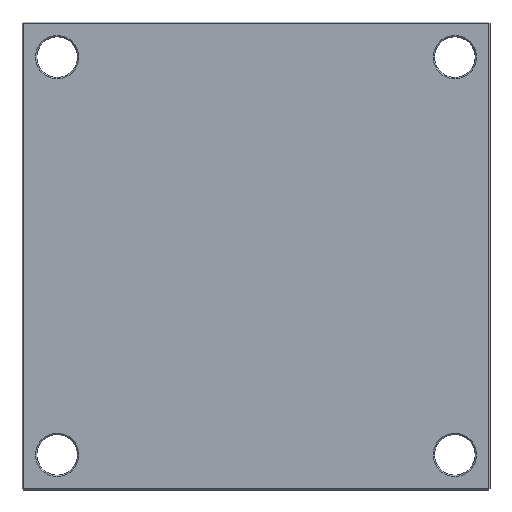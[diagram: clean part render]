
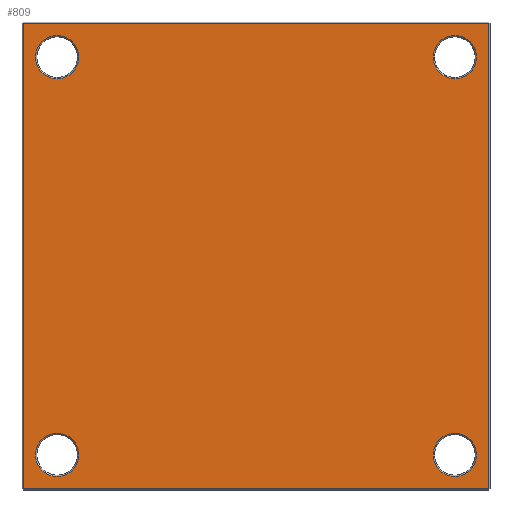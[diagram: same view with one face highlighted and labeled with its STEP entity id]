
A CAD part, front view. The second image highlights one B-rep face of the part: STEP entity #809.
In plain terms, the highlighted planar face has unit normal (0, -1, 0).
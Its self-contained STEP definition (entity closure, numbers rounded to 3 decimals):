
#5 = CIRCLE ( 'NONE', #78, 16. ) ;
#39 = CARTESIAN_POINT ( 'NONE',  ( 147., 0., -163. ) ) ;
#46 = DIRECTION ( 'NONE',  ( -1., 0., 0. ) ) ;
#47 = CARTESIAN_POINT ( 'NONE',  ( -172., 0., -172. ) ) ;
#56 = DIRECTION ( 'NONE',  ( 0., 0., 1. ) ) ;
#71 = CARTESIAN_POINT ( 'NONE',  ( 0., 0., 0. ) ) ;
#78 = AXIS2_PLACEMENT_3D ( 'NONE', #1435, #989, #1199 ) ;
#83 = CARTESIAN_POINT ( 'NONE',  ( 0., 0., 172. ) ) ;
#91 = PLANE ( 'NONE',  #1365 ) ;
#122 = ORIENTED_EDGE ( 'NONE', *, *, #1351, .T. ) ;
#128 = VECTOR ( 'NONE', #1727, 1000. ) ;
#143 = ORIENTED_EDGE ( 'NONE', *, *, #2069, .T. ) ;
#181 = VECTOR ( 'NONE', #963, 1000. ) ;
#192 = DIRECTION ( 'NONE',  ( 0., 1., 0. ) ) ;
#201 = DIRECTION ( 'NONE',  ( 0., 1., 0. ) ) ;
#202 = ORIENTED_EDGE ( 'NONE', *, *, #557, .T. ) ;
#254 = FACE_OUTER_BOUND ( 'NONE', #1886, .T. ) ;
#277 = CARTESIAN_POINT ( 'NONE',  ( -147., 0., 147. ) ) ;
#298 = EDGE_LOOP ( 'NONE', ( #1005, #1440 ) ) ;
#363 = DIRECTION ( 'NONE',  ( 0., 0., 1. ) ) ;
#428 = VERTEX_POINT ( 'NONE', #47 ) ;
#450 = CIRCLE ( 'NONE', #862, 16. ) ;
#479 = VERTEX_POINT ( 'NONE', #1819 ) ;
#490 = EDGE_CURVE ( 'NONE', #428, #1511, #930, .T. ) ;
#519 = CARTESIAN_POINT ( 'NONE',  ( 172., 0., 172. ) ) ;
#527 = CARTESIAN_POINT ( 'NONE',  ( -172., 0., 0. ) ) ;
#557 = EDGE_CURVE ( 'NONE', #607, #1721, #450, .T. ) ;
#565 = EDGE_LOOP ( 'NONE', ( #1109, #1587 ) ) ;
#607 = VERTEX_POINT ( 'NONE', #1795 ) ;
#627 = CIRCLE ( 'NONE', #1877, 16. ) ;
#640 = VERTEX_POINT ( 'NONE', #1338 ) ;
#669 = FACE_BOUND ( 'NONE', #1212, .T. ) ;
#688 = VECTOR ( 'NONE', #46, 1000. ) ;
#691 = AXIS2_PLACEMENT_3D ( 'NONE', #2002, #1700, #1963 ) ;
#733 = DIRECTION ( 'NONE',  ( 0., 1., 0. ) ) ;
#740 = CARTESIAN_POINT ( 'NONE',  ( -147., 0., -163. ) ) ;
#809 = ADVANCED_FACE ( 'NONE', ( #669, #1526, #1593, #1961, #254 ), #91, .F. ) ;
#862 = AXIS2_PLACEMENT_3D ( 'NONE', #1902, #1890, #1875 ) ;
#883 = VERTEX_POINT ( 'NONE', #39 ) ;
#884 = LINE ( 'NONE', #527, #181 ) ;
#904 = AXIS2_PLACEMENT_3D ( 'NONE', #2109, #2040, #2012 ) ;
#917 = CIRCLE ( 'NONE', #1608, 16. ) ;
#927 = EDGE_CURVE ( 'NONE', #1625, #640, #1677, .T. ) ;
#930 = LINE ( 'NONE', #1815, #1663 ) ;
#943 = EDGE_CURVE ( 'NONE', #640, #1625, #2048, .T. ) ;
#963 = DIRECTION ( 'NONE',  ( 0., 0., -1. ) ) ;
#980 = LINE ( 'NONE', #1687, #128 ) ;
#989 = DIRECTION ( 'NONE',  ( 0., 1., 0. ) ) ;
#992 = CARTESIAN_POINT ( 'NONE',  ( 147., 0., -131. ) ) ;
#1005 = ORIENTED_EDGE ( 'NONE', *, *, #943, .T. ) ;
#1009 = DIRECTION ( 'NONE',  ( 0., 0., 1. ) ) ;
#1021 = CARTESIAN_POINT ( 'NONE',  ( 147., 0., -147. ) ) ;
#1042 = ORIENTED_EDGE ( 'NONE', *, *, #1655, .T. ) ;
#1057 = CARTESIAN_POINT ( 'NONE',  ( -147., 0., 131. ) ) ;
#1063 = EDGE_CURVE ( 'NONE', #883, #1546, #917, .T. ) ;
#1087 = AXIS2_PLACEMENT_3D ( 'NONE', #277, #192, #363 ) ;
#1109 = ORIENTED_EDGE ( 'NONE', *, *, #1063, .T. ) ;
#1129 = VERTEX_POINT ( 'NONE', #1708 ) ;
#1146 = DIRECTION ( 'NONE',  ( 1., 0., 0. ) ) ;
#1166 = LINE ( 'NONE', #83, #688 ) ;
#1199 = DIRECTION ( 'NONE',  ( 0., 0., 1. ) ) ;
#1212 = EDGE_LOOP ( 'NONE', ( #1827, #1519 ) ) ;
#1235 = EDGE_CURVE ( 'NONE', #1935, #1129, #627, .T. ) ;
#1251 = EDGE_CURVE ( 'NONE', #1511, #2085, #980, .T. ) ;
#1291 = EDGE_LOOP ( 'NONE', ( #143, #202 ) ) ;
#1338 = CARTESIAN_POINT ( 'NONE',  ( 147., 0., 131. ) ) ;
#1351 = EDGE_CURVE ( 'NONE', #2085, #479, #1166, .T. ) ;
#1365 = AXIS2_PLACEMENT_3D ( 'NONE', #71, #201, #56 ) ;
#1435 = CARTESIAN_POINT ( 'NONE',  ( -147., 0., -147. ) ) ;
#1438 = EDGE_CURVE ( 'NONE', #1129, #1935, #5, .T. ) ;
#1440 = ORIENTED_EDGE ( 'NONE', *, *, #927, .T. ) ;
#1441 = CARTESIAN_POINT ( 'NONE',  ( 147., 0., 147. ) ) ;
#1454 = DIRECTION ( 'NONE',  ( 0., 0., 1. ) ) ;
#1511 = VERTEX_POINT ( 'NONE', #2152 ) ;
#1519 = ORIENTED_EDGE ( 'NONE', *, *, #1438, .T. ) ;
#1526 = FACE_BOUND ( 'NONE', #565, .T. ) ;
#1546 = VERTEX_POINT ( 'NONE', #992 ) ;
#1547 = CARTESIAN_POINT ( 'NONE',  ( -147., 0., -147. ) ) ;
#1565 = DIRECTION ( 'NONE',  ( 0., 1., 0. ) ) ;
#1587 = ORIENTED_EDGE ( 'NONE', *, *, #1779, .T. ) ;
#1593 = FACE_BOUND ( 'NONE', #298, .T. ) ;
#1595 = DIRECTION ( 'NONE',  ( 0., 1., 0. ) ) ;
#1608 = AXIS2_PLACEMENT_3D ( 'NONE', #1021, #733, #1009 ) ;
#1625 = VERTEX_POINT ( 'NONE', #1801 ) ;
#1655 = EDGE_CURVE ( 'NONE', #479, #428, #884, .T. ) ;
#1663 = VECTOR ( 'NONE', #1146, 1000. ) ;
#1668 = CIRCLE ( 'NONE', #691, 16. ) ;
#1674 = CIRCLE ( 'NONE', #1087, 16. ) ;
#1677 = CIRCLE ( 'NONE', #904, 16. ) ;
#1679 = ORIENTED_EDGE ( 'NONE', *, *, #490, .T. ) ;
#1687 = CARTESIAN_POINT ( 'NONE',  ( 172., 0., 0. ) ) ;
#1700 = DIRECTION ( 'NONE',  ( 0., 1., 0. ) ) ;
#1703 = DIRECTION ( 'NONE',  ( 0., 0., 1. ) ) ;
#1708 = CARTESIAN_POINT ( 'NONE',  ( -147., 0., -131. ) ) ;
#1721 = VERTEX_POINT ( 'NONE', #1057 ) ;
#1727 = DIRECTION ( 'NONE',  ( 0., 0., 1. ) ) ;
#1779 = EDGE_CURVE ( 'NONE', #1546, #883, #1668, .T. ) ;
#1795 = CARTESIAN_POINT ( 'NONE',  ( -147., 0., 163. ) ) ;
#1801 = CARTESIAN_POINT ( 'NONE',  ( 147., 0., 163. ) ) ;
#1815 = CARTESIAN_POINT ( 'NONE',  ( 0., 0., -172. ) ) ;
#1819 = CARTESIAN_POINT ( 'NONE',  ( -172., 0., 172. ) ) ;
#1827 = ORIENTED_EDGE ( 'NONE', *, *, #1235, .T. ) ;
#1875 = DIRECTION ( 'NONE',  ( 0., 0., 1. ) ) ;
#1877 = AXIS2_PLACEMENT_3D ( 'NONE', #1547, #1595, #1703 ) ;
#1886 = EDGE_LOOP ( 'NONE', ( #2022, #122, #1042, #1679 ) ) ;
#1890 = DIRECTION ( 'NONE',  ( 0., 1., 0. ) ) ;
#1902 = CARTESIAN_POINT ( 'NONE',  ( -147., 0., 147. ) ) ;
#1935 = VERTEX_POINT ( 'NONE', #740 ) ;
#1961 = FACE_BOUND ( 'NONE', #1291, .T. ) ;
#1963 = DIRECTION ( 'NONE',  ( 0., 0., 1. ) ) ;
#2002 = CARTESIAN_POINT ( 'NONE',  ( 147., 0., -147. ) ) ;
#2012 = DIRECTION ( 'NONE',  ( 0., 0., 1. ) ) ;
#2022 = ORIENTED_EDGE ( 'NONE', *, *, #1251, .T. ) ;
#2040 = DIRECTION ( 'NONE',  ( 0., 1., 0. ) ) ;
#2048 = CIRCLE ( 'NONE', #2172, 16. ) ;
#2069 = EDGE_CURVE ( 'NONE', #1721, #607, #1674, .T. ) ;
#2085 = VERTEX_POINT ( 'NONE', #519 ) ;
#2109 = CARTESIAN_POINT ( 'NONE',  ( 147., 0., 147. ) ) ;
#2152 = CARTESIAN_POINT ( 'NONE',  ( 172., 0., -172. ) ) ;
#2172 = AXIS2_PLACEMENT_3D ( 'NONE', #1441, #1565, #1454 ) ;
